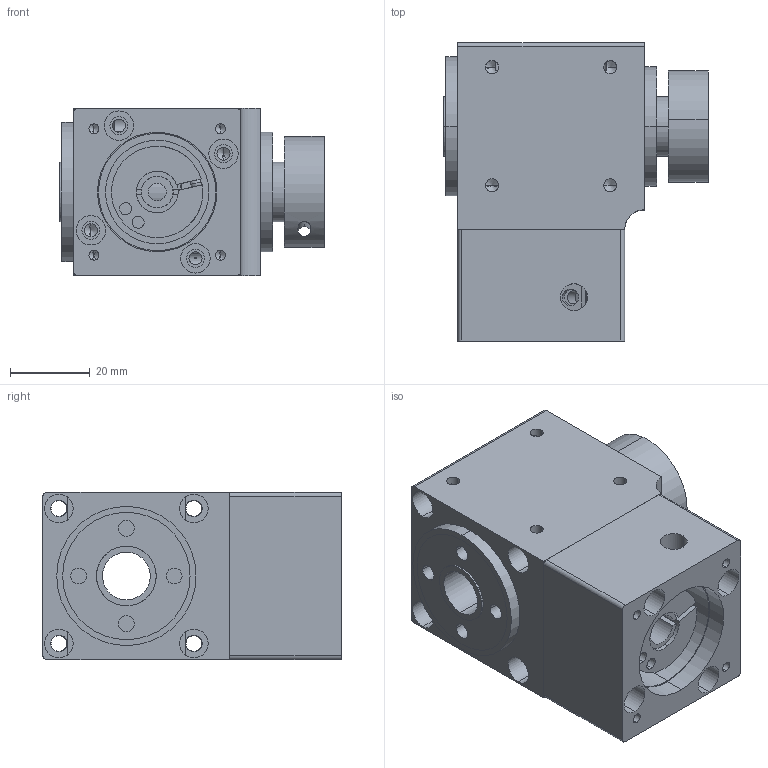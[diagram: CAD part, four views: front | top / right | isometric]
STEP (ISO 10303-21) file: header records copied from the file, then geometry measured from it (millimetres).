
FILE_DESCRIPTION (( 'STEP AP203' ), '1' );
FILE_NAME ('42单孔（松下100W）.STEP', '2019-12-10T11:11:42', ( '微软用户' ), ( '微软中国' ), 'SwSTEP 2.0', 'SolidWorks 2015', '' );
FILE_SCHEMA (( 'CONFIG_CONTROL_DESIGN' ));
Length unit declared in the file: millimetre
Products named in the file (12): 標杶ㄗ1ㄘ; 綴楊擘ㄗ侂狟100Wㄘ; 6001_Rolling bearings 6001 GB 276-94; 6002_Rolling bearings 6002 GB 276-94; 61902_Rolling bearings 61902 GB 276-94; 褲极; 42等謂; 输入轴; 標杶2; 蹟譫; 42等謂ㄗ侂狟100Wㄘ; 蹟譫ㄗ2ㄘ
Assembly tree (11 placements, depth 2):
  42等謂ㄗ侂狟100Wㄘ
    褲极
    输入轴
    蹟譫
    蹟譫ㄗ2ㄘ
    標杶ㄗ1ㄘ
    綴楊擘ㄗ侂狟100Wㄘ
    6001_Rolling bearings 6001 GB 276-94
    6002_Rolling bearings 6002 GB 276-94
    61902_Rolling bearings 61902 GB 276-94
    42等謂
    標杶2
Bounding box: 66.5 x 75 x 42 mm (x, y, z)
Volume: 98891.5 mm3; surface area: 59946.2 mm2
Topology: 11 solids, 11 shells, 676 faces, 2436 edges, 1607 vertices
Faces by surface type: cylinder 246, torus 177, plane 98, sphere 98, cone 57
Entity records: 29712 total; most frequent: CARTESIAN_POINT 9878, ORIENTED_EDGE 4208, DIRECTION 3712, EDGE_CURVE 2104, AXIS2_PLACEMENT_3D 1669, VERTEX_POINT 1411, CIRCLE 979, EDGE_LOOP 811
